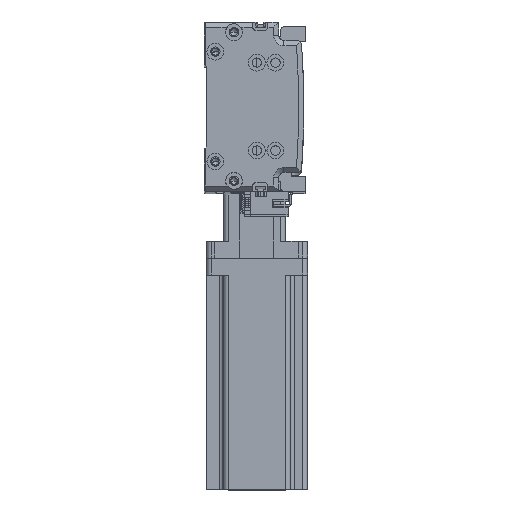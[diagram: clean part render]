
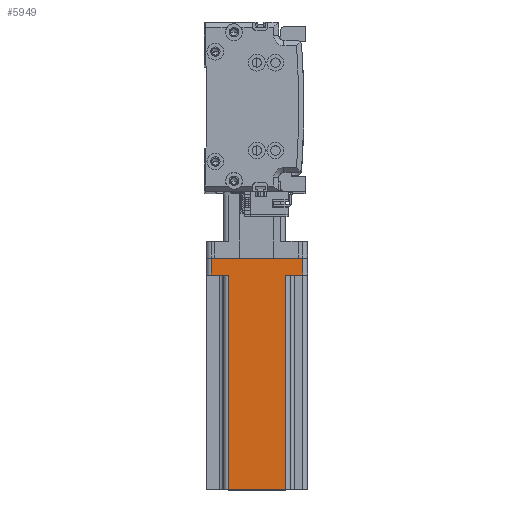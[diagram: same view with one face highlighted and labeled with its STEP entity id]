
A CAD part, top view. The second image highlights one B-rep face of the part: STEP entity #5949.
In plain terms, the highlighted planar face has unit normal (0, 0, 1) as drawn and (0, 1, 0) by its records, which use the part's own axes.
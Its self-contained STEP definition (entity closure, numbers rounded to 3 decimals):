
#972 = VERTEX_POINT ( 'NONE', #40692 ) ;
#1105 = PLANE ( 'NONE',  #31705 ) ;
#1968 = VECTOR ( 'NONE', #29227, 1000. ) ;
#2038 = CARTESIAN_POINT ( 'NONE',  ( -27., 30., 137. ) ) ;
#2536 = DIRECTION ( 'NONE',  ( 0., 0., 1. ) ) ;
#2912 = CARTESIAN_POINT ( 'NONE',  ( 30., 30., 137. ) ) ;
#3163 = EDGE_CURVE ( 'NONE', #19569, #27672, #40972, .T. ) ;
#3346 = LINE ( 'NONE', #15245, #33305 ) ;
#4857 = EDGE_CURVE ( 'NONE', #12087, #20302, #33142, .T. ) ;
#5850 = ORIENTED_EDGE ( 'NONE', *, *, #45023, .T. ) ;
#5949 = ADVANCED_FACE ( 'NONE', ( #40044 ), #1105, .F. ) ;
#6003 = VECTOR ( 'NONE', #16559, 1000. ) ;
#6479 = EDGE_CURVE ( 'NONE', #34636, #14082, #3346, .T. ) ;
#8443 = ORIENTED_EDGE ( 'NONE', *, *, #25102, .T. ) ;
#8731 = CARTESIAN_POINT ( 'NONE',  ( 30., 30., 0. ) ) ;
#9087 = ORIENTED_EDGE ( 'NONE', *, *, #3163, .T. ) ;
#12087 = VERTEX_POINT ( 'NONE', #21466 ) ;
#12615 = VERTEX_POINT ( 'NONE', #14838 ) ;
#13135 = VECTOR ( 'NONE', #48164, 1000. ) ;
#14082 = VERTEX_POINT ( 'NONE', #42209 ) ;
#14426 = CARTESIAN_POINT ( 'NONE',  ( 30., 30., 137. ) ) ;
#14838 = CARTESIAN_POINT ( 'NONE',  ( 27., 30., 0. ) ) ;
#15245 = CARTESIAN_POINT ( 'NONE',  ( -17., 30., 137. ) ) ;
#16559 = DIRECTION ( 'NONE',  ( -1., 0., 0. ) ) ;
#17610 = LINE ( 'NONE', #8731, #6003 ) ;
#17991 = CARTESIAN_POINT ( 'NONE',  ( 17., 30., 137. ) ) ;
#18378 = DIRECTION ( 'NONE',  ( 1., 0., 0. ) ) ;
#19136 = DIRECTION ( 'NONE',  ( 0., 0., 1. ) ) ;
#19569 = VERTEX_POINT ( 'NONE', #23683 ) ;
#19745 = DIRECTION ( 'NONE',  ( 1., 0., 0. ) ) ;
#20302 = VERTEX_POINT ( 'NONE', #30089 ) ;
#21100 = CARTESIAN_POINT ( 'NONE',  ( 27., 30., 137. ) ) ;
#21466 = CARTESIAN_POINT ( 'NONE',  ( 27., 30., 10. ) ) ;
#23683 = CARTESIAN_POINT ( 'NONE',  ( -27., 30., 0. ) ) ;
#25102 = EDGE_CURVE ( 'NONE', #12615, #19569, #17610, .T. ) ;
#25314 = CARTESIAN_POINT ( 'NONE',  ( 20., 30., 10. ) ) ;
#25669 = VECTOR ( 'NONE', #19745, 1000. ) ;
#25788 = CARTESIAN_POINT ( 'NONE',  ( -27., 30., 10. ) ) ;
#25997 = ORIENTED_EDGE ( 'NONE', *, *, #44048, .T. ) ;
#27672 = VERTEX_POINT ( 'NONE', #25788 ) ;
#28143 = LINE ( 'NONE', #50322, #25669 ) ;
#28569 = VECTOR ( 'NONE', #33655, 1000. ) ;
#29227 = DIRECTION ( 'NONE',  ( -1., 0., 0. ) ) ;
#29834 = ORIENTED_EDGE ( 'NONE', *, *, #43068, .T. ) ;
#30089 = CARTESIAN_POINT ( 'NONE',  ( 17., 30., 10. ) ) ;
#30972 = LINE ( 'NONE', #17991, #28569 ) ;
#31459 = LINE ( 'NONE', #2912, #39376 ) ;
#31705 = AXIS2_PLACEMENT_3D ( 'NONE', #14426, #41727, #18378 ) ;
#33142 = LINE ( 'NONE', #25314, #1968 ) ;
#33305 = VECTOR ( 'NONE', #19136, 1000. ) ;
#33655 = DIRECTION ( 'NONE',  ( 0., 0., -1. ) ) ;
#33855 = LINE ( 'NONE', #21100, #13135 ) ;
#34636 = VERTEX_POINT ( 'NONE', #43619 ) ;
#38396 = ORIENTED_EDGE ( 'NONE', *, *, #6479, .T. ) ;
#39376 = VECTOR ( 'NONE', #45906, 1000. ) ;
#40044 = FACE_OUTER_BOUND ( 'NONE', #41889, .T. ) ;
#40692 = CARTESIAN_POINT ( 'NONE',  ( 17., 30., 137. ) ) ;
#40972 = LINE ( 'NONE', #2038, #49988 ) ;
#41727 = DIRECTION ( 'NONE',  ( 0., -1., 0. ) ) ;
#41889 = EDGE_LOOP ( 'NONE', ( #29834, #38396, #46860, #25997, #49935, #5850, #8443, #9087 ) ) ;
#42209 = CARTESIAN_POINT ( 'NONE',  ( -17., 30., 137. ) ) ;
#43068 = EDGE_CURVE ( 'NONE', #27672, #34636, #28143, .T. ) ;
#43619 = CARTESIAN_POINT ( 'NONE',  ( -17., 30., 10. ) ) ;
#44048 = EDGE_CURVE ( 'NONE', #972, #20302, #30972, .T. ) ;
#45023 = EDGE_CURVE ( 'NONE', #12087, #12615, #33855, .T. ) ;
#45906 = DIRECTION ( 'NONE',  ( -1., 0., 0. ) ) ;
#46860 = ORIENTED_EDGE ( 'NONE', *, *, #48398, .F. ) ;
#48164 = DIRECTION ( 'NONE',  ( 0., 0., -1. ) ) ;
#48398 = EDGE_CURVE ( 'NONE', #972, #14082, #31459, .T. ) ;
#49935 = ORIENTED_EDGE ( 'NONE', *, *, #4857, .F. ) ;
#49988 = VECTOR ( 'NONE', #2536, 1000. ) ;
#50322 = CARTESIAN_POINT ( 'NONE',  ( -20., 30., 10. ) ) ;
